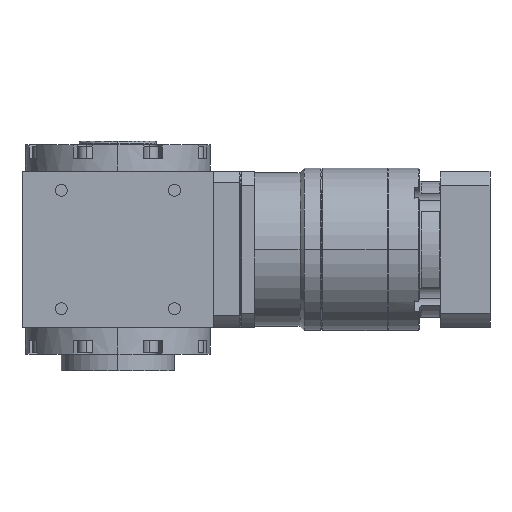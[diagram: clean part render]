
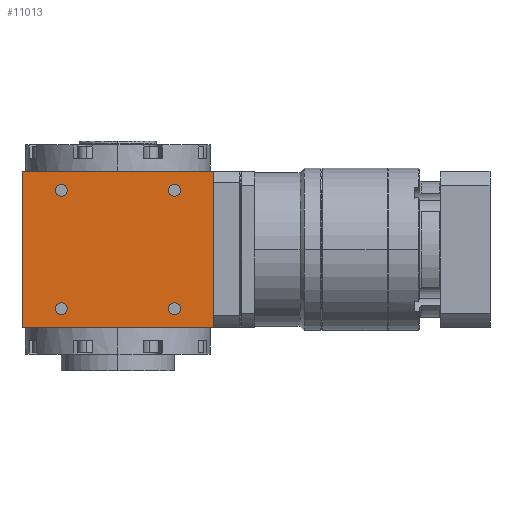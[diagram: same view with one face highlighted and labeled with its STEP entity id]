
A CAD part, left-side view. The second image highlights one B-rep face of the part: STEP entity #11013.
In plain terms, the highlighted planar face has unit normal (-1, 0, 0).
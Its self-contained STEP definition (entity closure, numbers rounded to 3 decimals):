
#79 = EDGE_CURVE ( 'NONE', #10793, #2482, #10345, .T. ) ;
#88 = EDGE_CURVE ( 'NONE', #486, #6495, #14446, .T. ) ;
#486 = VERTEX_POINT ( 'NONE', #13333 ) ;
#579 = ORIENTED_EDGE ( 'NONE', *, *, #6605, .T. ) ;
#605 = CARTESIAN_POINT ( 'NONE',  ( -55., 0., 45. ) ) ;
#637 = CARTESIAN_POINT ( 'NONE',  ( -55., 55., 45. ) ) ;
#703 = ORIENTED_EDGE ( 'NONE', *, *, #8364, .T. ) ;
#724 = AXIS2_PLACEMENT_3D ( 'NONE', #14306, #4052, #1728 ) ;
#819 = DIRECTION ( 'NONE',  ( 1., 0., 0. ) ) ;
#917 = CARTESIAN_POINT ( 'NONE',  ( -55., -32.5, 34. ) ) ;
#1273 = VERTEX_POINT ( 'NONE', #3950 ) ;
#1459 = CARTESIAN_POINT ( 'NONE',  ( -55., 32.5, 34. ) ) ;
#1588 = FACE_BOUND ( 'NONE', #1900, .T. ) ;
#1659 = CARTESIAN_POINT ( 'NONE',  ( -55., 32.5, 34. ) ) ;
#1728 = DIRECTION ( 'NONE',  ( 0., -1., 0. ) ) ;
#1807 = DIRECTION ( 'NONE',  ( -1., 0., 0. ) ) ;
#1825 = CIRCLE ( 'NONE', #7086, 3.4 ) ;
#1900 = EDGE_LOOP ( 'NONE', ( #4436, #14793 ) ) ;
#2079 = DIRECTION ( 'NONE',  ( 0., -1., 0. ) ) ;
#2106 = CARTESIAN_POINT ( 'NONE',  ( -55., 35.9, -34. ) ) ;
#2211 = AXIS2_PLACEMENT_3D ( 'NONE', #917, #6622, #12314 ) ;
#2482 = VERTEX_POINT ( 'NONE', #3670 ) ;
#2529 = ORIENTED_EDGE ( 'NONE', *, *, #5929, .T. ) ;
#2578 = EDGE_LOOP ( 'NONE', ( #9249, #5939 ) ) ;
#2663 = AXIS2_PLACEMENT_3D ( 'NONE', #3005, #1807, #14235 ) ;
#3005 = CARTESIAN_POINT ( 'NONE',  ( -55., 55., -45. ) ) ;
#3150 = CARTESIAN_POINT ( 'NONE',  ( -55., -32.5, 34. ) ) ;
#3169 = DIRECTION ( 'NONE',  ( 0., 0., 1. ) ) ;
#3612 = DIRECTION ( 'NONE',  ( 0., 0., -1. ) ) ;
#3670 = CARTESIAN_POINT ( 'NONE',  ( -55., 29.1, -34. ) ) ;
#3685 = ORIENTED_EDGE ( 'NONE', *, *, #12932, .T. ) ;
#3728 = CARTESIAN_POINT ( 'NONE',  ( -55., -29.1, -34. ) ) ;
#3928 = ORIENTED_EDGE ( 'NONE', *, *, #11920, .F. ) ;
#3950 = CARTESIAN_POINT ( 'NONE',  ( -55., -35.9, -34. ) ) ;
#3995 = DIRECTION ( 'NONE',  ( 0., -1., 0. ) ) ;
#4052 = DIRECTION ( 'NONE',  ( 1., 0., 0. ) ) ;
#4339 = AXIS2_PLACEMENT_3D ( 'NONE', #1459, #11718, #8284 ) ;
#4351 = DIRECTION ( 'NONE',  ( 1., 0., 0. ) ) ;
#4436 = ORIENTED_EDGE ( 'NONE', *, *, #13461, .T. ) ;
#4556 = ORIENTED_EDGE ( 'NONE', *, *, #9382, .F. ) ;
#4834 = CIRCLE ( 'NONE', #12232, 3.4 ) ;
#4856 = VERTEX_POINT ( 'NONE', #8759 ) ;
#5207 = DIRECTION ( 'NONE',  ( 1., 0., 0. ) ) ;
#5817 = CARTESIAN_POINT ( 'NONE',  ( -55., -55., -45. ) ) ;
#5929 = EDGE_CURVE ( 'NONE', #4856, #6958, #8205, .T. ) ;
#5939 = ORIENTED_EDGE ( 'NONE', *, *, #79, .T. ) ;
#5958 = CARTESIAN_POINT ( 'NONE',  ( -55., -55., 45. ) ) ;
#6060 = AXIS2_PLACEMENT_3D ( 'NONE', #1659, #14237, #10490 ) ;
#6087 = AXIS2_PLACEMENT_3D ( 'NONE', #6401, #5207, #11113 ) ;
#6221 = FACE_BOUND ( 'NONE', #2578, .T. ) ;
#6313 = LINE ( 'NONE', #605, #13749 ) ;
#6359 = CARTESIAN_POINT ( 'NONE',  ( -55., -55., -45. ) ) ;
#6401 = CARTESIAN_POINT ( 'NONE',  ( -55., 32.5, -34. ) ) ;
#6495 = VERTEX_POINT ( 'NONE', #13155 ) ;
#6605 = EDGE_CURVE ( 'NONE', #1273, #10633, #4834, .T. ) ;
#6622 = DIRECTION ( 'NONE',  ( 1., 0., 0. ) ) ;
#6863 = DIRECTION ( 'NONE',  ( 1., 0., 0. ) ) ;
#6958 = VERTEX_POINT ( 'NONE', #8861 ) ;
#7086 = AXIS2_PLACEMENT_3D ( 'NONE', #8835, #4351, #13476 ) ;
#7216 = CIRCLE ( 'NONE', #4339, 3.4 ) ;
#7284 = FACE_BOUND ( 'NONE', #9900, .T. ) ;
#7390 = VERTEX_POINT ( 'NONE', #9927 ) ;
#7665 = LINE ( 'NONE', #13412, #10812 ) ;
#7778 = CARTESIAN_POINT ( 'NONE',  ( -55., 0., -45. ) ) ;
#8205 = CIRCLE ( 'NONE', #6060, 3.4 ) ;
#8284 = DIRECTION ( 'NONE',  ( 0., -1., 0. ) ) ;
#8364 = EDGE_CURVE ( 'NONE', #10633, #1273, #1825, .T. ) ;
#8631 = CIRCLE ( 'NONE', #724, 3.4 ) ;
#8681 = LINE ( 'NONE', #6359, #13193 ) ;
#8692 = FACE_BOUND ( 'NONE', #10023, .T. ) ;
#8708 = EDGE_CURVE ( 'NONE', #7390, #10444, #14664, .T. ) ;
#8759 = CARTESIAN_POINT ( 'NONE',  ( -55., 29.1, 34. ) ) ;
#8835 = CARTESIAN_POINT ( 'NONE',  ( -55., -32.5, -34. ) ) ;
#8861 = CARTESIAN_POINT ( 'NONE',  ( -55., 35.9, 34. ) ) ;
#9249 = ORIENTED_EDGE ( 'NONE', *, *, #10940, .T. ) ;
#9382 = EDGE_CURVE ( 'NONE', #12701, #11674, #6313, .T. ) ;
#9495 = ORIENTED_EDGE ( 'NONE', *, *, #8708, .T. ) ;
#9900 = EDGE_LOOP ( 'NONE', ( #2529, #3685 ) ) ;
#9927 = CARTESIAN_POINT ( 'NONE',  ( -55., 55., -45. ) ) ;
#10023 = EDGE_LOOP ( 'NONE', ( #579, #703 ) ) ;
#10345 = CIRCLE ( 'NONE', #6087, 3.4 ) ;
#10353 = EDGE_LOOP ( 'NONE', ( #3928, #9495, #14715, #4556 ) ) ;
#10431 = VECTOR ( 'NONE', #10932, 1000. ) ;
#10444 = VERTEX_POINT ( 'NONE', #5817 ) ;
#10490 = DIRECTION ( 'NONE',  ( 0., -1., 0. ) ) ;
#10633 = VERTEX_POINT ( 'NONE', #3728 ) ;
#10793 = VERTEX_POINT ( 'NONE', #2106 ) ;
#10812 = VECTOR ( 'NONE', #3169, 1000. ) ;
#10932 = DIRECTION ( 'NONE',  ( 0., -1., 0. ) ) ;
#10940 = EDGE_CURVE ( 'NONE', #2482, #10793, #8631, .T. ) ;
#11013 = ADVANCED_FACE ( 'NONE', ( #11915, #7284, #6221, #8692, #1588 ), #12063, .T. ) ;
#11113 = DIRECTION ( 'NONE',  ( 0., -1., 0. ) ) ;
#11674 = VERTEX_POINT ( 'NONE', #5958 ) ;
#11718 = DIRECTION ( 'NONE',  ( 1., 0., 0. ) ) ;
#11915 = FACE_OUTER_BOUND ( 'NONE', #10353, .T. ) ;
#11920 = EDGE_CURVE ( 'NONE', #7390, #12701, #7665, .T. ) ;
#12063 = PLANE ( 'NONE',  #2663 ) ;
#12120 = EDGE_CURVE ( 'NONE', #11674, #10444, #8681, .T. ) ;
#12232 = AXIS2_PLACEMENT_3D ( 'NONE', #14725, #6863, #2079 ) ;
#12314 = DIRECTION ( 'NONE',  ( 0., -1., 0. ) ) ;
#12686 = AXIS2_PLACEMENT_3D ( 'NONE', #3150, #819, #14246 ) ;
#12701 = VERTEX_POINT ( 'NONE', #637 ) ;
#12932 = EDGE_CURVE ( 'NONE', #6958, #4856, #7216, .T. ) ;
#13155 = CARTESIAN_POINT ( 'NONE',  ( -55., -35.9, 34. ) ) ;
#13193 = VECTOR ( 'NONE', #3612, 1000. ) ;
#13333 = CARTESIAN_POINT ( 'NONE',  ( -55., -29.1, 34. ) ) ;
#13412 = CARTESIAN_POINT ( 'NONE',  ( -55., 55., -45. ) ) ;
#13461 = EDGE_CURVE ( 'NONE', #6495, #486, #14830, .T. ) ;
#13476 = DIRECTION ( 'NONE',  ( 0., -1., 0. ) ) ;
#13749 = VECTOR ( 'NONE', #3995, 1000. ) ;
#14235 = DIRECTION ( 'NONE',  ( 0., -1., 0. ) ) ;
#14237 = DIRECTION ( 'NONE',  ( 1., 0., 0. ) ) ;
#14246 = DIRECTION ( 'NONE',  ( 0., -1., 0. ) ) ;
#14306 = CARTESIAN_POINT ( 'NONE',  ( -55., 32.5, -34. ) ) ;
#14446 = CIRCLE ( 'NONE', #2211, 3.4 ) ;
#14664 = LINE ( 'NONE', #7778, #10431 ) ;
#14715 = ORIENTED_EDGE ( 'NONE', *, *, #12120, .F. ) ;
#14725 = CARTESIAN_POINT ( 'NONE',  ( -55., -32.5, -34. ) ) ;
#14793 = ORIENTED_EDGE ( 'NONE', *, *, #88, .T. ) ;
#14830 = CIRCLE ( 'NONE', #12686, 3.4 ) ;
